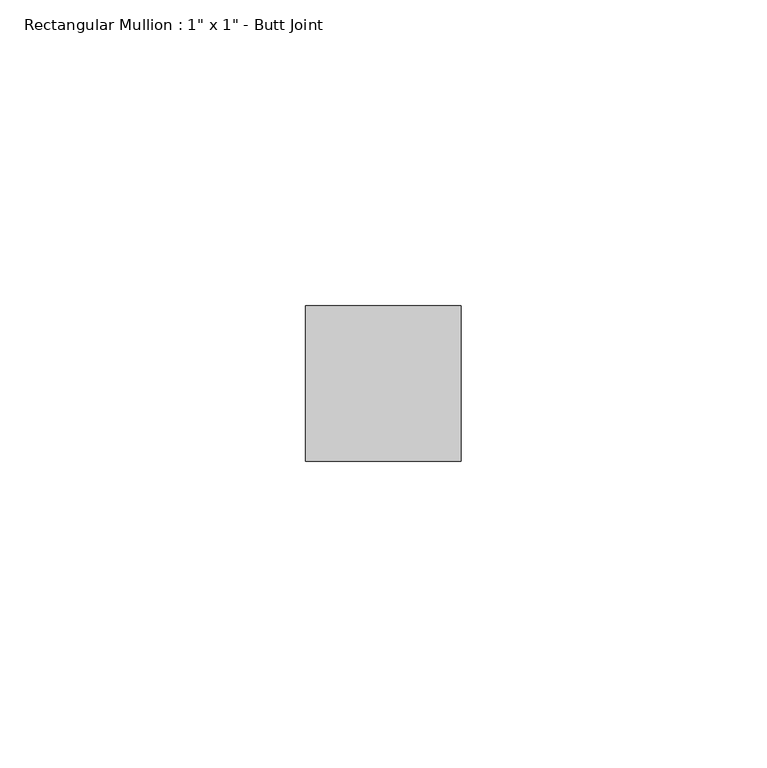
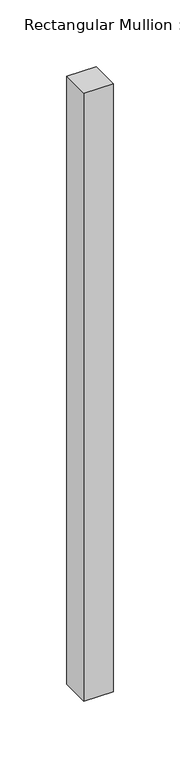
"""IFC4 building model written with IfcOpenShell, lengths in millimetres: member geometry."""

from ifc_helpers import new_model, si_unit, frame, origin, place, context, project, spatial, polyline, outline, extrude, source, transform, mapped, element, save


def member_0337d645(model_context):
    return source(origin(), model_context, "Body", "SweptSolid", [
        extrude(outline(polyline([(12.7, 12.7), (12.7, -12.7), (-12.7, -12.7), (-12.7, 12.7), (12.7, 12.7)])), frame((0.0, 0.0, -556.26), z_axis=(0.0, 0.0, 1.0), x_axis=(1.0, 0.0, 0.0)), (0.0, 0.0, 1.0), 556.26),
    ])


if __name__ == "__main__":
    model = new_model("IFC4")
    model_context = context("Model", 3, world=origin())
    ifc_project = project(units=[si_unit("LENGTHUNIT", "METRE", prefix="MILLI")], contexts=[model_context])
    site = spatial("IfcSite", under=ifc_project)
    building = spatial("IfcBuilding", under=site)
    placement = place(None, origin())
    member_shape = member_0337d645(model_context)
    element("IfcMember", 1, ObjectType="Rectangular Mullion : 1\" x 1\" - Butt Joint", at=placement, inside=building, context=model_context, shape_type="MappedRepresentation", body=[
        mapped(member_shape, transform((0.0, 0.0, 0.0), x_axis=(1.0, 0.0, 0.0), y_axis=(0.0, 1.0, 0.0), z_axis=(0.0, 0.0, 1.0))),
    ])
    save(model, "model.ifc")
